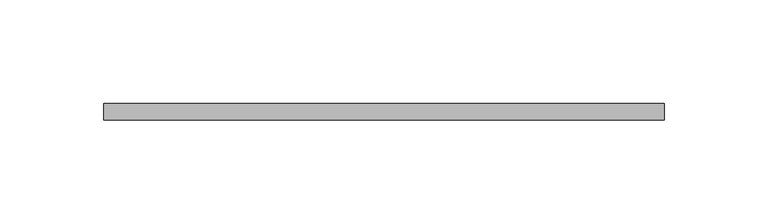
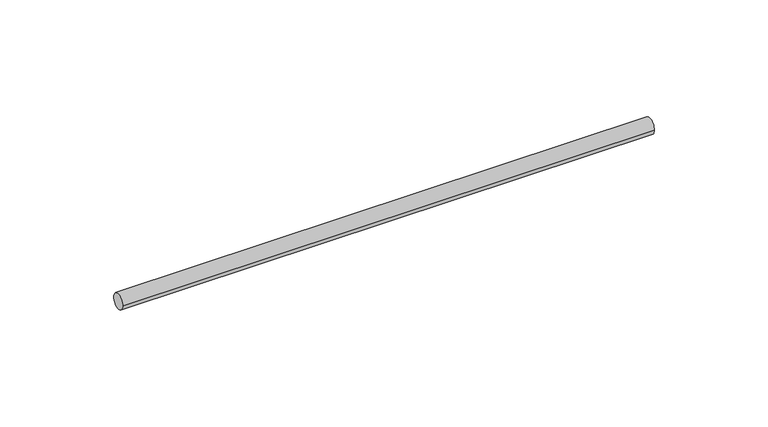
"""IFC4 building model written with IfcOpenShell, lengths in millimetres: valve geometry, Superfix Threaded Rod (used for clamps) : Threaded Rod - 1000 mm (used for clamps)."""

from ifc_helpers import new_model, si_unit, point, frame, origin, origin_2d, place, context, project, spatial, circle_curve, trimmed, segment, composite_curve, outline, extrude, source, transform, mapped, element, save


def valve_4cd83ece(model_context):
    return source(origin(), model_context, "Body", "SweptSolid", [
        extrude(outline(composite_curve([segment(trimmed(circle_curve(origin_2d(), 4.0), [point((-4.0, 0.0))], [point((4.0, 0.0))], False, "CARTESIAN"), True, "CONTINUOUS"), segment(trimmed(circle_curve(origin_2d(), 4.0), [point((4.0, 0.0))], [point((-4.0, 0.0))], False, "CARTESIAN"), True, "CONTINUOUS")], self_intersect=False)), frame((-10.0, 0.0, 0.0), z_axis=(1.0, 0.0, 0.0), x_axis=(0.0, 1.0, 0.0)), (0.0, 0.0, 1.0), 270.0),
    ])


if __name__ == "__main__":
    model = new_model("IFC4")
    model_context = context("Model", 3, world=origin())
    ifc_project = project(units=[si_unit("LENGTHUNIT", "METRE", prefix="MILLI")], contexts=[model_context])
    site = spatial("IfcSite", under=ifc_project)
    building = spatial("IfcBuilding", under=site)
    placement = place(None, origin())
    valve_shape = valve_4cd83ece(model_context)
    element("IfcValve", 1, ObjectType="Superfix Threaded Rod (used for clamps) : Threaded Rod - 1000 mm (used for clamps)", at=placement, inside=building, context=model_context, shape_type="MappedRepresentation", body=[
        mapped(valve_shape, transform((0.0, 0.0, 0.0), x_axis=(1.0, 0.0, 0.0), y_axis=(0.0, 1.0, 0.0), z_axis=(0.0, 0.0, 1.0))),
    ])
    save(model, "model.ifc")
